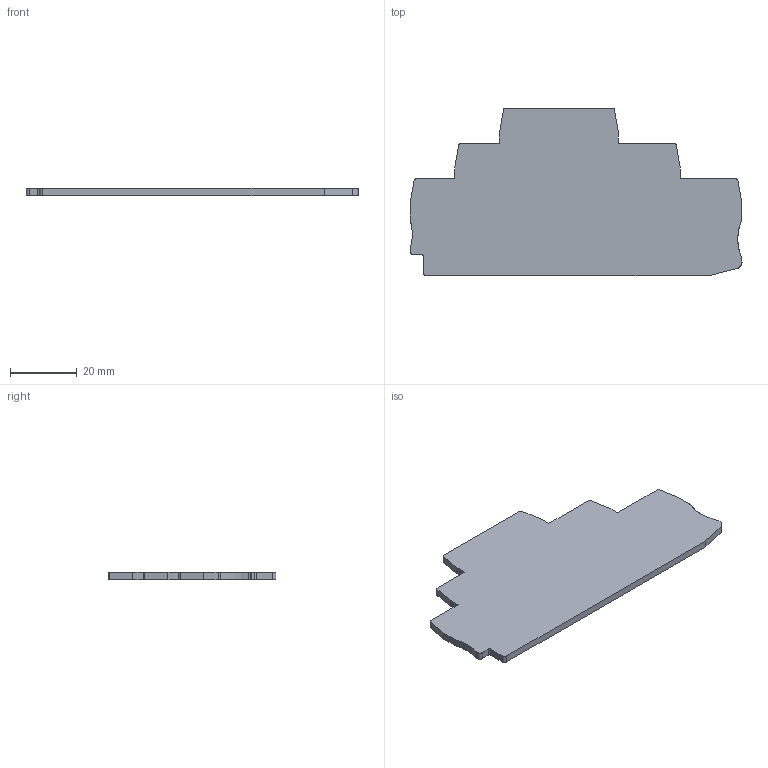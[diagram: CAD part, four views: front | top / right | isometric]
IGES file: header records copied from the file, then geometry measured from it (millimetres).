
Global section: file name: 3036660_d_st25-3l_select.igs; native system: OneSpace Designer 3D IGES; preprocessor: 11.50A  18-Jul-2002; date: 20040317.082711; units: millimetre
Bounding box: 99.45 x 50.25 x 2.2 mm (x, y, z)
Surface area: 8439 mm2 (no closed solid volume)
Topology: 0 solids, 0 shells, 41 faces, 326 edges, 326 vertices
Faces by surface type: bspline 41
